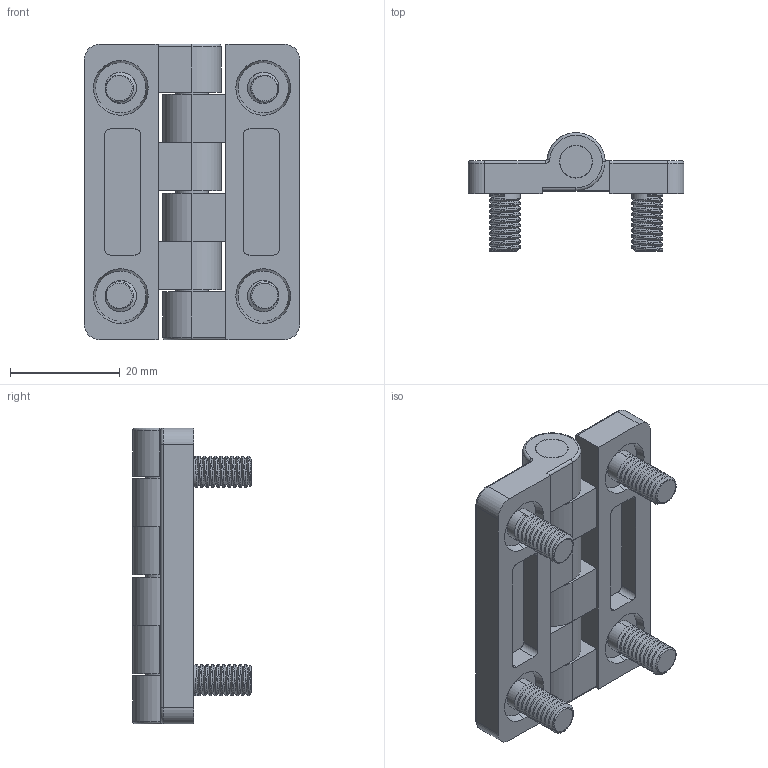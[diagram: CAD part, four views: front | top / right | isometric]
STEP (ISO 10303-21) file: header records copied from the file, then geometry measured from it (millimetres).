
FILE_DESCRIPTION (( 'STEP AP214' ), '1' );
FILE_NAME ('HL015-1-2軞蚾.STEP', '2023-07-05T02:45:54', ( '' ), ( '' ), 'SwSTEP 2.0', 'SolidWorks 2019', '' );
FILE_SCHEMA (( 'AUTOMOTIVE_DESIGN' ));
Length unit declared in the file: millimetre
Products named in the file (4): HL015-1 - A; HL015-1-2軞蚾; HL015-1; HL015-1 - B
Assembly tree (3 placements, depth 2):
  HL015-1-2軞蚾
    HL015-1 - A
    HL015-1
    HL015-1 - B
Bounding box: 39.4 x 21.59 x 54 mm (x, y, z)
Volume: 13459 mm3; surface area: 10546.8 mm2
Topology: 3 solids, 3 shells, 934 faces, 2605 edges, 1726 vertices
Faces by surface type: plane 512, bspline 268, cylinder 136, torus 10, cone 8
Entity records: 49153 total; most frequent: CARTESIAN_POINT 27199, ORIENTED_EDGE 5210, DIRECTION 3411, EDGE_CURVE 2605, LINE 1759, VECTOR 1759, VERTEX_POINT 1726, EDGE_LOOP 995
